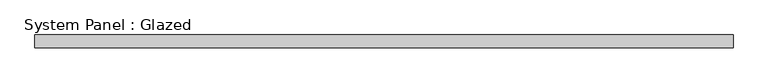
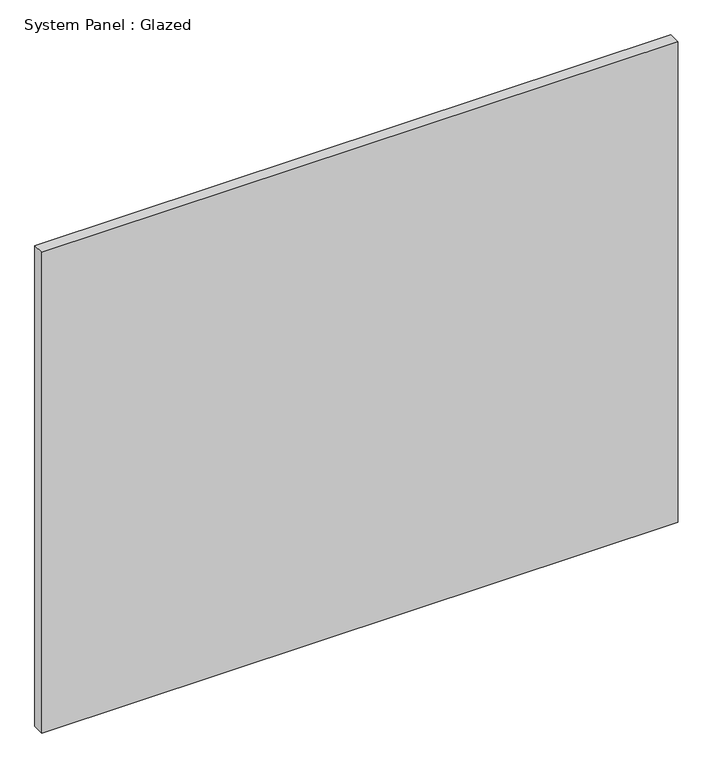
"""IFC4 building model written with IfcOpenShell, lengths in millimetres: plate geometry, System Panel : Glazed."""

from ifc_helpers import new_model, si_unit, origin, origin_with_axes, place, context, project, spatial, polyline, outline, extrude, source, transform, mapped, element, save


def system_panel_glazed_bcf29336(model_context):
    return source(origin(), model_context, "Body", "SweptSolid", [
        extrude(outline(polyline([(673.3099811, 24.5), (-673.3099811, 24.5), (-673.3099811, 49.5), (673.3099811, 49.5), (673.3099811, 24.5)])), origin_with_axes(), (0.0, 0.0, 1.0), 1075.0),
    ])


if __name__ == "__main__":
    model = new_model("IFC4")
    model_context = context("Model", 3, world=origin())
    ifc_project = project(units=[si_unit("LENGTHUNIT", "METRE", prefix="MILLI")], contexts=[model_context])
    site = spatial("IfcSite", under=ifc_project)
    building = spatial("IfcBuilding", under=site)
    placement = place(None, origin())
    system_panel_glazed_shape = system_panel_glazed_bcf29336(model_context)
    element("IfcPlate", 1, ObjectType="System Panel : Glazed", at=placement, inside=building, context=model_context, shape_type="MappedRepresentation", body=[
        mapped(system_panel_glazed_shape, transform((0.0, 0.0, 0.0), x_axis=(1.0, 0.0, 0.0), y_axis=(0.0, 1.0, 0.0), z_axis=(0.0, 0.0, 1.0))),
    ])
    save(model, "model.ifc")
